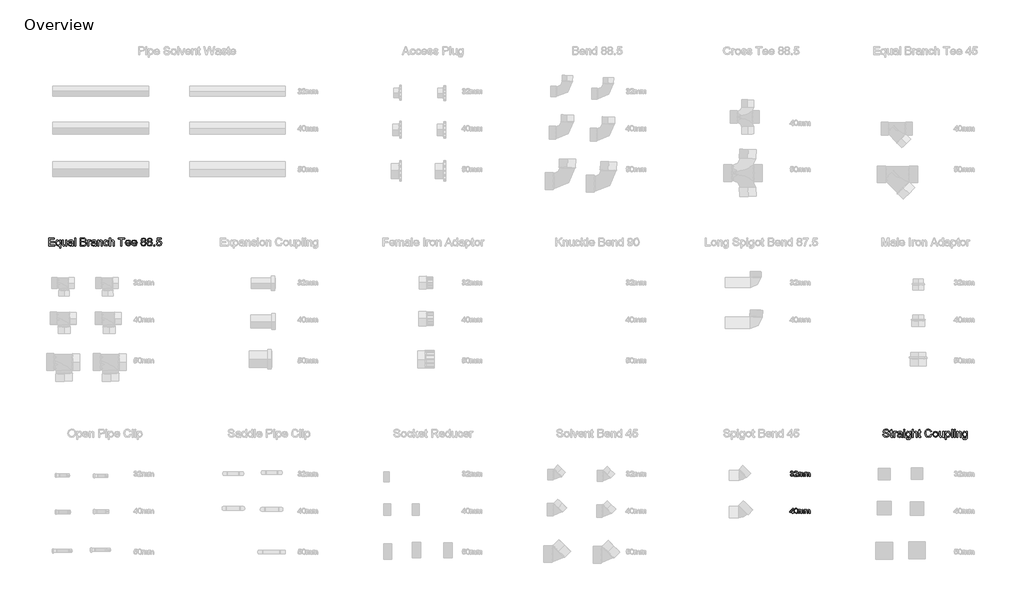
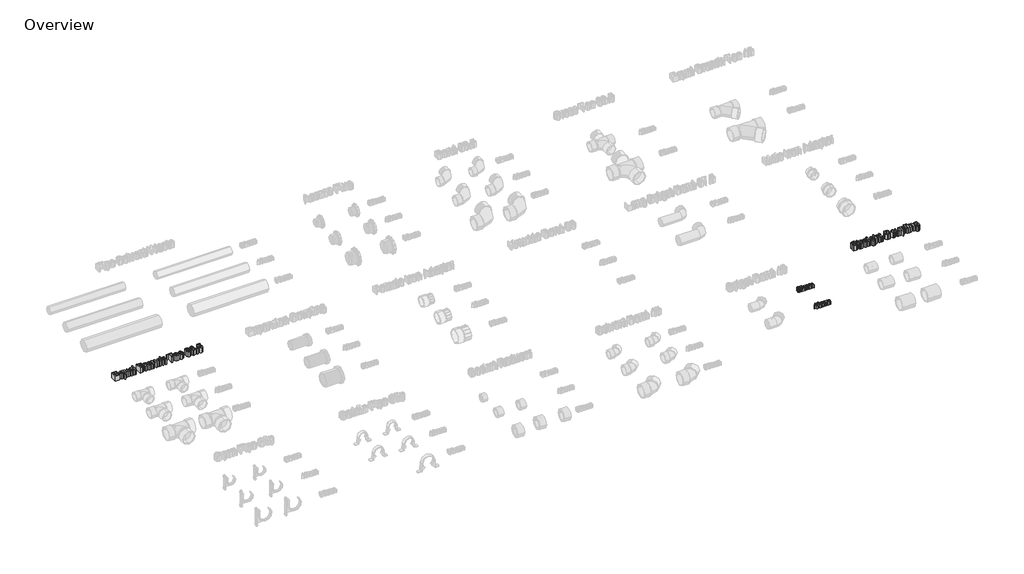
# One storey, part 4 of 10: 4 proxies.
"""IFC4 building model written with IfcOpenShell, lengths in millimetres."""

from ifc_helpers import new_model, si_unit, origin, origin_with_axes, place, context, project, spatial, polyline, outline, extrude, element, save

model = new_model("IFC4")

# Units and contexts
model_context = context("Model", 3, world=origin())
ifc_project = project(units=[si_unit("LENGTHUNIT", "METRE", prefix="MILLI")], contexts=[model_context])

# Site, building, storey
site = spatial("IfcSite", under=ifc_project)
building = spatial("IfcBuilding", under=site)
storey = spatial("IfcBuildingStorey", under=building, Name="Overview", Elevation=0.0)

# Proxies
placement = place(None, origin())
element("IfcBuildingElementProxy", 1, Name="20mm Arial", ObjectType="20mm Arial", at=placement, inside=storey, context=model_context, shape_type="SweptSolid", body=[
    extrude(outline(polyline([(-498.2349117, 3721.4652453), (-495.7733732, 3721.7729376), (-494.4152001, 3719.1815914), (-491.8743347, 3718.3883222), (-488.8839501, 3719.4796684), (-487.7733732, 3722.1815914), (-488.8743347, 3724.7272645), (-491.6724117, 3725.7344761), (-493.3983732, 3725.4652453), (-493.1243347, 3727.9267837), (-489.9368347, 3728.6046684), (-488.6964501, 3730.7777453), (-489.5954886, 3732.7032261), (-491.9127963, 3733.4652453), (-494.2589501, 3732.6960145), (-495.4656809, 3730.3883222), (-497.9272194, 3730.6960145), (-495.9127963, 3734.5565914), (-491.9993347, 3735.9267837), (-489.0305847, 3735.251303), (-486.9536617, 3733.4051491), (-486.2349117, 3730.9219761), (-486.917604, 3728.6527453), (-488.9368347, 3727.0229376), (-486.2541424, 3725.3402453), (-485.3118347, 3722.1383222), (-487.1964501, 3717.7344761), (-491.9608732, 3715.9267837), (-496.2781809, 3717.470053), (-498.2349117, 3721.4652453)])), origin_with_axes(), (0.0, 0.0, 1.0), 15.0),
    extrude(outline(polyline([(-470.542604, 3718.6960145), (-470.542604, 3716.2344761), (-483.4656809, 3716.2344761), (-483.2012578, 3717.9315914), (-481.7060655, 3720.5445722), (-478.6243347, 3723.3979376), (-474.3743347, 3727.4988991), (-473.3118347, 3730.2873607), (-474.3142386, 3732.5445722), (-476.9320271, 3733.4652453), (-479.6603924, 3732.5662068), (-480.6964501, 3730.0806299), (-483.1579886, 3730.3883222), (-481.2709694, 3734.5085145), (-476.8791424, 3735.9267837), (-472.4728924, 3734.3498607), (-470.8502963, 3730.4363991), (-471.2877963, 3728.1022645), (-472.7421232, 3725.688803), (-476.2685655, 3722.3162068), (-479.1002963, 3719.9484184), (-480.2108732, 3718.6960145), (-470.542604, 3718.6960145)])), origin_with_axes(), (0.0, 0.0, 1.0), 15.0),
    extrude(outline(polyline([(-467.4656809, 3716.2344761), (-467.4656809, 3730.6960145), (-465.0041424, 3730.6960145), (-465.0041424, 3728.3162068), (-463.3118347, 3730.2657261), (-460.9031809, 3731.0037068), (-458.4368347, 3730.251303), (-457.0810655, 3728.1431299), (-452.7349117, 3731.0037068), (-449.5161617, 3729.813803), (-448.3887578, 3726.1479376), (-448.3887578, 3716.2344761), (-450.8502963, 3716.2344761), (-450.8502963, 3725.0902453), (-451.0786617, 3727.1455337), (-455.7325078, 3727.5565914), (-456.6964501, 3724.3979376), (-456.6964501, 3716.2344761), (-459.1579886, 3716.2344761), (-459.1579886, 3725.3642837), (-459.7277001, 3727.7488991), (-461.5954886, 3728.5421684), (-463.417604, 3728.0133222), (-464.6291424, 3726.4652453), (-465.0041424, 3723.5277453), (-465.0041424, 3716.2344761), (-467.4656809, 3716.2344761)])), origin_with_axes(), (0.0, 0.0, 1.0), 15.0),
    extrude(outline(polyline([(-444.6964501, 3716.2344761), (-444.6964501, 3730.6960145), (-442.2349117, 3730.6960145), (-442.2349117, 3728.3162068), (-440.542604, 3730.2657261), (-438.1339501, 3731.0037068), (-435.667604, 3730.251303), (-434.3118347, 3728.1431299), (-429.9656809, 3731.0037068), (-426.7469309, 3729.813803), (-425.6195271, 3726.1479376), (-425.6195271, 3716.2344761), (-428.0810655, 3716.2344761), (-428.0810655, 3725.0902453), (-428.3094309, 3727.1455337), (-432.9632771, 3727.5565914), (-433.9272194, 3724.3979376), (-433.9272194, 3716.2344761), (-436.3887578, 3716.2344761), (-436.3887578, 3725.3642837), (-436.9584694, 3727.7488991), (-438.8262578, 3728.5421684), (-440.6483732, 3728.0133222), (-441.8599117, 3726.4652453), (-442.2349117, 3723.5277453), (-442.2349117, 3716.2344761), (-444.6964501, 3716.2344761)])), origin_with_axes(), (0.0, 0.0, 1.0), 15.0),
])
element("IfcBuildingElementProxy", 2, Name="20mm Arial", ObjectType="20mm Arial", at=placement, inside=storey, context=model_context, shape_type="SweptSolid", body=[
    extrude(outline(polyline([(-490.2349117, 3580.5685355), (-490.2349117, 3585.1839201), (-499.1579886, 3585.1839201), (-499.1579886, 3587.6454586), (-489.6195271, 3599.9531509), (-487.7733732, 3599.9531509), (-487.7733732, 3587.6454586), (-485.3118347, 3587.6454586), (-485.3118347, 3585.1839201), (-487.7733732, 3585.1839201), (-487.7733732, 3580.5685355), (-490.2349117, 3580.5685355)]), holes=[polyline([(-490.2349117, 3587.6454586), (-490.2349117, 3595.2512278), (-496.1291424, 3587.6454586), (-490.2349117, 3587.6454586)])]), origin_with_axes(), (0.0, 0.0, 1.0), 15.0),
    extrude(outline(polyline([(-483.1579886, 3590.2560355), (-482.4344309, 3595.9219009), (-480.2853924, 3599.1887278), (-476.6964501, 3600.2608432), (-473.8214501, 3599.6262278), (-471.8358732, 3597.7969009), (-470.6820271, 3594.8834393), (-470.2349117, 3590.2560355), (-470.9512578, 3584.6142086), (-473.0930847, 3581.3401701), (-476.6964501, 3580.2608432), (-481.1964501, 3582.1358432), (-483.1579886, 3590.2560355)]), holes=[polyline([(-480.6964501, 3590.2608432), (-479.542604, 3584.1478624), (-476.6964501, 3582.7223816), (-473.8502963, 3584.1526701), (-472.6964501, 3590.2608432), (-473.8118347, 3596.3041124), (-476.7252963, 3597.7993047), (-479.5041424, 3596.481997), (-480.6964501, 3590.2608432)])]), origin_with_axes(), (0.0, 0.0, 1.0), 15.0),
    extrude(outline(polyline([(-467.4656809, 3580.5685355), (-467.4656809, 3595.030074), (-465.0041424, 3595.030074), (-465.0041424, 3592.6502663), (-463.3118347, 3594.5997855), (-460.9031809, 3595.3377663), (-458.4368347, 3594.5853624), (-457.0810655, 3592.4771893), (-452.7349117, 3595.3377663), (-449.5161617, 3594.1478624), (-448.3887578, 3590.481997), (-448.3887578, 3580.5685355), (-450.8502963, 3580.5685355), (-450.8502963, 3589.4243047), (-451.0786617, 3591.4795932), (-455.7325078, 3591.8906509), (-456.6964501, 3588.731997), (-456.6964501, 3580.5685355), (-459.1579886, 3580.5685355), (-459.1579886, 3589.6983432), (-459.7277001, 3592.0829586), (-461.5954886, 3592.8762278), (-463.417604, 3592.3473816), (-464.6291424, 3590.7993047), (-465.0041424, 3587.8618047), (-465.0041424, 3580.5685355), (-467.4656809, 3580.5685355)])), origin_with_axes(), (0.0, 0.0, 1.0), 15.0),
    extrude(outline(polyline([(-444.6964501, 3580.5685355), (-444.6964501, 3595.030074), (-442.2349117, 3595.030074), (-442.2349117, 3592.6502663), (-440.542604, 3594.5997855), (-438.1339501, 3595.3377663), (-435.667604, 3594.5853624), (-434.3118347, 3592.4771893), (-429.9656809, 3595.3377663), (-426.7469309, 3594.1478624), (-425.6195271, 3590.481997), (-425.6195271, 3580.5685355), (-428.0810655, 3580.5685355), (-428.0810655, 3589.4243047), (-428.3094309, 3591.4795932), (-432.9632771, 3591.8906509), (-433.9272194, 3588.731997), (-433.9272194, 3580.5685355), (-436.3887578, 3580.5685355), (-436.3887578, 3589.6983432), (-436.9584694, 3592.0829586), (-438.8262578, 3592.8762278), (-440.6483732, 3592.3473816), (-441.8599117, 3590.7993047), (-442.2349117, 3587.8618047), (-442.2349117, 3580.5685355), (-444.6964501, 3580.5685355)])), origin_with_axes(), (0.0, 0.0, 1.0), 15.0),
])
element("IfcBuildingElementProxy", 3, Name="600mm Arial", ObjectType="600mm Arial", at=placement, inside=storey, context=model_context, shape_type="SweptSolid", body=[
    extrude(outline(polyline([(-3209.7615857, 4559.5713154), (-3209.7615857, 4589.1097769), (-3188.5308165, 4589.1097769), (-3188.5308165, 4585.4174692), (-3206.069278, 4585.4174692), (-3206.069278, 4576.6482385), (-3189.4538934, 4576.6482385), (-3189.4538934, 4572.9559308), (-3206.069278, 4572.9559308), (-3206.069278, 4563.2636231), (-3188.069278, 4563.2636231), (-3188.069278, 4559.5713154), (-3209.7615857, 4559.5713154)])), origin_with_axes(), (0.0, 0.0, 1.0), 25.0),
    extrude(outline(polyline([(-3169.6077396, 4551.2636231), (-3169.6077396, 4562.5280462), (-3171.9514896, 4560.0833346), (-3175.1534126, 4559.1097769), (-3181.6510088, 4562.1854981), (-3184.3769703, 4570.6193923), (-3183.2952396, 4576.46795), (-3180.1582203, 4580.3910269), (-3175.6510088, 4581.7251615), (-3169.6077396, 4577.5857385), (-3169.6077396, 4581.2636231), (-3165.9154319, 4581.2636231), (-3165.9154319, 4551.2636231), (-3169.6077396, 4551.2636231)]), holes=[polyline([(-3180.6846626, 4570.4174692), (-3179.022403, 4564.7059308), (-3175.038028, 4562.8020846), (-3171.2123069, 4564.6121808), (-3169.6077396, 4570.1217962), (-3171.2988453, 4576.046075), (-3175.2687972, 4578.0328538), (-3179.1089415, 4576.1830942), (-3180.6846626, 4570.4174692)])]), origin_with_axes(), (0.0, 0.0, 1.0), 25.0),
    extrude(outline(polyline([(-3146.5308165, 4559.5713154), (-3146.5308165, 4563.2996808), (-3153.194278, 4559.1097769), (-3156.6666338, 4559.8453538), (-3159.0608646, 4561.6915077), (-3160.1606242, 4564.4102577), (-3160.3769703, 4567.84295), (-3160.3769703, 4581.2636231), (-3156.6846626, 4581.2636231), (-3156.6846626, 4569.5809308), (-3156.4611049, 4565.8165077), (-3155.0007684, 4563.6061712), (-3152.2495665, 4562.8020846), (-3149.1666338, 4563.6242), (-3147.1293742, 4565.8633827), (-3146.5308165, 4569.9775654), (-3146.5308165, 4581.2636231), (-3142.8385088, 4581.2636231), (-3142.8385088, 4559.5713154), (-3146.5308165, 4559.5713154)])), origin_with_axes(), (0.0, 0.0, 1.0), 25.0),
    extrude(outline(polyline([(-3123.9154319, 4562.3405462), (-3127.4959607, 4559.8381423), (-3131.4514896, 4559.1097769), (-3136.8132684, 4560.8621808), (-3138.6846626, 4565.3405462), (-3137.9779319, 4568.2612192), (-3136.1209607, 4570.3814115), (-3133.5356242, 4571.59295), (-3130.3409126, 4572.1482385), (-3123.9370665, 4573.4174692), (-3124.9322588, 4576.9655462), (-3129.0139896, 4578.0328538), (-3132.7495665, 4577.3225173), (-3134.5308165, 4574.8020846), (-3138.2231242, 4575.2636231), (-3136.6257684, 4578.8693923), (-3133.4094222, 4580.9823731), (-3128.538028, 4581.7251615), (-3124.0632684, 4581.0689115), (-3121.5356242, 4579.421075), (-3120.4034126, 4576.9150654), (-3120.2231242, 4573.6842962), (-3120.2231242, 4569.0905462), (-3120.0356242, 4562.6758827), (-3119.3000472, 4559.5713154), (-3122.9923549, 4559.5713154), (-3123.9154319, 4562.3405462)]), holes=[polyline([(-3123.9262492, 4569.202325), (-3129.8721626, 4568.59295), (-3133.0488453, 4567.9943923), (-3134.4875472, 4567.0208346), (-3133.8925953, 4563.6025654), (-3130.6654319, 4562.8020846), (-3126.9298549, 4563.6854981), (-3124.5212011, 4565.8237192), (-3123.9262492, 4569.202325)])]), origin_with_axes(), (0.0, 0.0, 1.0), 25.0),
    extrude(outline(polyline([(-3115.1462011, 4559.5713154), (-3115.1462011, 4589.1097769), (-3111.4538934, 4589.1097769), (-3111.4538934, 4559.5713154), (-3115.1462011, 4559.5713154)])), origin_with_axes(), (0.0, 0.0, 1.0), 25.0),
    extrude(outline(polyline([(-3093.9154319, 4559.5713154), (-3093.9154319, 4589.1097769), (-3082.6437972, 4589.1097769), (-3077.1233646, 4588.2407865), (-3073.8637492, 4585.5689115), (-3072.6846626, 4581.7900654), (-3073.6762492, 4578.3393442), (-3076.6726434, 4575.7251615), (-3073.0344222, 4572.9703538), (-3071.7615857, 4568.3766038), (-3072.6305761, 4564.4066519), (-3074.7832203, 4561.5797288), (-3077.9959607, 4560.0797288), (-3082.7303357, 4559.5713154), (-3093.9154319, 4559.5713154)]), holes=[polyline([(-3090.2231242, 4563.2636231), (-3082.6510088, 4563.2636231), (-3079.9106242, 4563.4078538), (-3077.5921146, 4564.2119404), (-3076.0560569, 4565.8525654), (-3075.4538934, 4568.3405462), (-3076.1606242, 4571.2107385), (-3078.4502876, 4572.9234788), (-3083.0115857, 4573.4174692), (-3090.2231242, 4573.4174692), (-3090.2231242, 4563.2636231)]), polyline([(-3090.2231242, 4577.1097769), (-3083.4803357, 4577.1097769), (-3079.5428357, 4577.4270846), (-3077.1738453, 4578.7936712), (-3076.3769703, 4581.1987192), (-3077.1197588, 4583.6073731), (-3079.2471626, 4585.0316519), (-3083.9923549, 4585.4174692), (-3090.2231242, 4585.4174692), (-3090.2231242, 4577.1097769)])]), origin_with_axes(), (0.0, 0.0, 1.0), 25.0),
    extrude(outline(polyline([(-3067.1462011, 4559.5713154), (-3067.1462011, 4581.2636231), (-3063.9154319, 4581.2636231), (-3063.9154319, 4578.0544885), (-3061.6221626, 4581.0112192), (-3059.3144703, 4581.7251615), (-3055.6077396, 4580.5857385), (-3056.8409126, 4577.2756423), (-3059.4370665, 4578.0328538), (-3061.5248069, 4577.3044885), (-3062.8553357, 4575.2852577), (-3063.4538934, 4570.9727577), (-3063.4538934, 4559.5713154), (-3067.1462011, 4559.5713154)])), origin_with_axes(), (0.0, 0.0, 1.0), 25.0),
    extrude(outline(polyline([(-3039.4538934, 4562.3405462), (-3043.0344222, 4559.8381423), (-3046.9899511, 4559.1097769), (-3052.3517299, 4560.8621808), (-3054.2231242, 4565.3405462), (-3053.5163934, 4568.2612192), (-3051.6594222, 4570.3814115), (-3049.0740857, 4571.59295), (-3045.8793742, 4572.1482385), (-3039.475528, 4573.4174692), (-3040.4707203, 4576.9655462), (-3044.5524511, 4578.0328538), (-3048.288028, 4577.3225173), (-3050.069278, 4574.8020846), (-3053.7615857, 4575.2636231), (-3052.1642299, 4578.8693923), (-3048.9478838, 4580.9823731), (-3044.0764896, 4581.7251615), (-3039.6017299, 4581.0689115), (-3037.0740857, 4579.421075), (-3035.9418742, 4576.9150654), (-3035.7615857, 4573.6842962), (-3035.7615857, 4569.0905462), (-3035.5740857, 4562.6758827), (-3034.8385088, 4559.5713154), (-3038.5308165, 4559.5713154), (-3039.4538934, 4562.3405462)]), holes=[polyline([(-3039.4647107, 4569.202325), (-3045.4106242, 4568.59295), (-3048.5873069, 4567.9943923), (-3050.0260088, 4567.0208346), (-3049.4310569, 4563.6025654), (-3046.2038934, 4562.8020846), (-3042.4683165, 4563.6854981), (-3040.0596626, 4565.8237192), (-3039.4647107, 4569.202325)])]), origin_with_axes(), (0.0, 0.0, 1.0), 25.0),
    extrude(outline(polyline([(-3030.6846626, 4559.5713154), (-3030.6846626, 4581.2636231), (-3026.9923549, 4581.2636231), (-3026.9923549, 4578.2347769), (-3020.3144703, 4581.7251615), (-3016.8276915, 4581.0220365), (-3014.4478838, 4579.1758827), (-3013.3409126, 4576.4607385), (-3013.1462011, 4572.8910269), (-3013.1462011, 4559.5713154), (-3016.8385088, 4559.5713154), (-3016.8385088, 4572.3934308), (-3017.2639896, 4575.6602577), (-3018.7675953, 4577.3874212), (-3021.3024511, 4578.0328538), (-3025.3084607, 4576.5833346), (-3026.9923549, 4571.0809308), (-3026.9923549, 4559.5713154), (-3030.6846626, 4559.5713154)])), origin_with_axes(), (0.0, 0.0, 1.0), 25.0),
    extrude(outline(polyline([(-2994.2231242, 4567.4174692), (-2990.5308165, 4566.9559308), (-2993.4947588, 4561.1903058), (-2999.350528, 4559.1097769), (-3006.3493261, 4562.0124212), (-3008.9923549, 4570.3381423), (-3007.8637492, 4576.4715558), (-3004.4238453, 4580.4126615), (-2999.4010088, 4581.7251615), (-2993.7868261, 4579.9222769), (-2990.9923549, 4574.8020846), (-2994.6846626, 4574.3405462), (-2996.397403, 4577.1061712), (-2999.3721626, 4578.0328538), (-3003.6522107, 4576.2083346), (-3005.3000472, 4570.4391038), (-3003.6882684, 4564.6157865), (-2999.4731242, 4562.8020846), (-2995.9935569, 4563.9342962), (-2994.2231242, 4567.4174692)])), origin_with_axes(), (0.0, 0.0, 1.0), 25.0),
    extrude(outline(polyline([(-2987.3000472, 4559.5713154), (-2987.3000472, 4589.1097769), (-2983.6077396, 4589.1097769), (-2983.6077396, 4578.2492), (-2977.1822588, 4581.7251615), (-2973.0356242, 4580.7768442), (-2970.5187972, 4578.15545), (-2969.7615857, 4573.3020846), (-2969.7615857, 4559.5713154), (-2973.4538934, 4559.5713154), (-2973.4538934, 4572.9198731), (-2974.6293742, 4576.8141038), (-2977.9611049, 4578.0328538), (-2980.9863453, 4577.2107385), (-2983.0055761, 4574.9823731), (-2983.6077396, 4571.0953538), (-2983.6077396, 4559.5713154), (-2987.3000472, 4559.5713154)])), origin_with_axes(), (0.0, 0.0, 1.0), 25.0),
    extrude(outline(polyline([(-2945.3000472, 4559.5713154), (-2945.3000472, 4585.4174692), (-2954.9923549, 4585.4174692), (-2954.9923549, 4589.1097769), (-2931.9154319, 4589.1097769), (-2931.9154319, 4585.4174692), (-2941.6077396, 4585.4174692), (-2941.6077396, 4559.5713154), (-2945.3000472, 4559.5713154)])), origin_with_axes(), (0.0, 0.0, 1.0), 25.0),
    extrude(outline(polyline([(-2913.0356242, 4566.0328538), (-2909.4154319, 4565.5713154), (-2912.8012492, 4560.8044885), (-2919.1077396, 4559.1097769), (-2926.7736049, 4562.0340558), (-2929.6077396, 4570.2371808), (-2926.7447588, 4578.7107385), (-2919.3168742, 4581.7251615), (-2912.1017299, 4578.71795), (-2909.3000472, 4570.2588154), (-2925.9154319, 4569.2636231), (-2923.7916338, 4564.46795), (-2919.0356242, 4562.8020846), (-2915.4154319, 4563.5737192), (-2913.0356242, 4566.0328538)]), holes=[polyline([(-2925.9154319, 4572.9559308), (-2912.9923549, 4572.9559308), (-2914.4707203, 4576.3020846), (-2919.3312972, 4578.0328538), (-2923.8781722, 4576.6518442), (-2925.9154319, 4572.9559308)])]), origin_with_axes(), (0.0, 0.0, 1.0), 25.0),
    extrude(outline(polyline([(-2890.4202396, 4566.0328538), (-2886.8000472, 4565.5713154), (-2890.1858646, 4560.8044885), (-2896.4923549, 4559.1097769), (-2904.1582203, 4562.0340558), (-2906.9923549, 4570.2371808), (-2904.1293742, 4578.7107385), (-2896.7014896, 4581.7251615), (-2889.4863453, 4578.71795), (-2886.6846626, 4570.2588154), (-2903.3000472, 4569.2636231), (-2901.1762492, 4564.46795), (-2896.4202396, 4562.8020846), (-2892.8000472, 4563.5737192), (-2890.4202396, 4566.0328538)]), holes=[polyline([(-2903.3000472, 4572.9559308), (-2890.3769703, 4572.9559308), (-2891.8553357, 4576.3020846), (-2896.7159126, 4578.0328538), (-2901.2627876, 4576.6518442), (-2903.3000472, 4572.9559308)])]), origin_with_axes(), (0.0, 0.0, 1.0), 25.0),
    extrude(outline(polyline([(-2866.9971626, 4575.8405462), (-2870.3613453, 4578.1338154), (-2871.4538934, 4581.7035269), (-2869.0740857, 4586.9751615), (-2862.7351434, 4589.1097769), (-2856.3385088, 4586.9246808), (-2853.9154319, 4581.6025654), (-2854.9935569, 4578.1229981), (-2858.2639896, 4575.8405462), (-2854.3373069, 4572.9451135), (-2852.9923549, 4568.1674692), (-2855.6606242, 4561.7203538), (-2862.6846626, 4559.1097769), (-2869.7087011, 4561.7311712), (-2872.3769703, 4568.2684308), (-2870.9779319, 4573.1578538), (-2866.9971626, 4575.8405462)]), holes=[polyline([(-2867.7615857, 4581.5953538), (-2866.4526915, 4578.6963154), (-2862.6413934, 4577.5713154), (-2858.9058165, 4578.6891038), (-2857.6077396, 4581.4294885), (-2858.9490857, 4584.2672288), (-2862.6846626, 4585.4174692), (-2866.4310569, 4584.2924692), (-2867.7615857, 4581.5953538)]), polyline([(-2868.6846626, 4568.3982385), (-2868.0680761, 4565.6181904), (-2865.8865857, 4563.5376615), (-2862.6558165, 4562.8020846), (-2858.256778, 4564.3489596), (-2856.6846626, 4568.2828538), (-2858.3072588, 4572.2924692), (-2862.7784126, 4573.8790077), (-2867.1233646, 4572.3141038), (-2868.6846626, 4568.3982385)])]), origin_with_axes(), (0.0, 0.0, 1.0), 25.0),
    extrude(outline(polyline([(-2844.381778, 4575.8405462), (-2847.7459607, 4578.1338154), (-2848.8385088, 4581.7035269), (-2846.4587011, 4586.9751615), (-2840.1197588, 4589.1097769), (-2833.7231242, 4586.9246808), (-2831.3000472, 4581.6025654), (-2832.3781722, 4578.1229981), (-2835.6486049, 4575.8405462), (-2831.7219222, 4572.9451135), (-2830.3769703, 4568.1674692), (-2833.0452396, 4561.7203538), (-2840.069278, 4559.1097769), (-2847.0933165, 4561.7311712), (-2849.7615857, 4568.2684308), (-2848.3625472, 4573.1578538), (-2844.381778, 4575.8405462)]), holes=[polyline([(-2845.1462011, 4581.5953538), (-2843.8373069, 4578.6963154), (-2840.0260088, 4577.5713154), (-2836.2904319, 4578.6891038), (-2834.9923549, 4581.4294885), (-2836.3337011, 4584.2672288), (-2840.069278, 4585.4174692), (-2843.8156722, 4584.2924692), (-2845.1462011, 4581.5953538)]), polyline([(-2846.069278, 4568.3982385), (-2845.4526915, 4565.6181904), (-2843.2712011, 4563.5376615), (-2840.0404319, 4562.8020846), (-2835.6413934, 4564.3489596), (-2834.069278, 4568.2828538), (-2835.6918742, 4572.2924692), (-2840.163028, 4573.8790077), (-2844.5079799, 4572.3141038), (-2846.069278, 4568.3982385)])]), origin_with_axes(), (0.0, 0.0, 1.0), 25.0),
    extrude(outline(polyline([(-2825.3000472, 4559.5713154), (-2825.3000472, 4563.2636231), (-2821.6077396, 4563.2636231), (-2821.6077396, 4559.5713154), (-2825.3000472, 4559.5713154)])), origin_with_axes(), (0.0, 0.0, 1.0), 25.0),
    extrude(outline(polyline([(-2815.6077396, 4567.4174692), (-2811.9154319, 4567.8790077), (-2810.0548549, 4564.0749212), (-2806.1966819, 4562.8020846), (-2801.5668742, 4564.5725173), (-2799.9154319, 4569.2708346), (-2801.4623069, 4573.65545), (-2806.1389896, 4575.2636231), (-2809.3805761, 4574.6217962), (-2811.4538934, 4572.9559308), (-2815.1462011, 4573.4174692), (-2811.9154319, 4588.6482385), (-2797.6077396, 4588.6482385), (-2797.6077396, 4584.9559308), (-2808.9298549, 4584.9559308), (-2810.5091819, 4576.8213154), (-2805.1077396, 4578.9559308), (-2798.7940376, 4576.3092962), (-2796.2231242, 4569.5016038), (-2798.538028, 4562.6506423), (-2806.2111049, 4559.1097769), (-2812.7267299, 4561.3850173), (-2815.6077396, 4567.4174692)])), origin_with_axes(), (0.0, 0.0, 1.0), 25.0),
])
element("IfcBuildingElementProxy", 4, Name="600mm Arial", ObjectType="600mm Arial", at=placement, inside=storey, context=model_context, shape_type="SweptSolid", body=[
    extrude(outline(polyline([(-158.9923549, 3869.7251615), (-155.3000472, 3869.7251615), (-154.1101434, 3866.0292481), (-151.2038934, 3863.6927096), (-146.7760088, 3862.8020846), (-142.9178357, 3863.4763635), (-140.4262492, 3865.3297288), (-139.6077396, 3867.8068923), (-140.2207203, 3870.1109788), (-142.7303357, 3871.7876615), (-148.1065376, 3873.1975173), (-153.8937972, 3875.0184308), (-157.0344222, 3877.7660269), (-158.069278, 3881.4367), (-156.7892299, 3885.6157865), (-153.0500472, 3888.5653058), (-147.5764896, 3889.5713154), (-141.7351434, 3888.5184308), (-137.8409126, 3885.4246808), (-136.3769703, 3880.8020846), (-140.069278, 3880.8020846), (-142.1606242, 3884.5953538), (-147.4322588, 3885.8790077), (-152.7183165, 3884.6097769), (-154.3769703, 3881.5448731), (-153.2014896, 3878.9847769), (-147.1726434, 3876.9222769), (-140.6389896, 3875.0689115), (-137.0656722, 3872.0761231), (-135.9154319, 3867.9006423), (-137.2387492, 3863.483575), (-141.0464415, 3860.2600173), (-146.631778, 3859.1097769), (-153.2267299, 3860.3501615), (-157.3986049, 3864.0857385), (-158.9923549, 3869.7251615)])), origin_with_axes(), (0.0, 0.0, 1.0), 25.0),
    extrude(outline(polyline([(-122.9923549, 3862.6506423), (-122.5308165, 3859.4631423), (-125.2928357, 3859.1097769), (-128.3865857, 3859.7227577), (-129.9298549, 3861.3309308), (-130.3769703, 3865.5208346), (-130.3769703, 3877.5713154), (-133.1462011, 3877.5713154), (-133.1462011, 3881.2636231), (-130.3769703, 3881.2636231), (-130.3769703, 3886.5352577), (-126.6846626, 3888.7059308), (-126.6846626, 3881.2636231), (-122.9923549, 3881.2636231), (-122.9923549, 3877.5713154), (-126.6846626, 3877.5713154), (-126.6846626, 3865.6290077), (-126.4899511, 3863.7251615), (-122.9923549, 3862.6506423)])), origin_with_axes(), (0.0, 0.0, 1.0), 25.0),
    extrude(outline(polyline([(-119.3000472, 3859.5713154), (-119.3000472, 3881.2636231), (-116.069278, 3881.2636231), (-116.069278, 3878.0544885), (-113.7760088, 3881.0112192), (-111.4683165, 3881.7251615), (-107.7615857, 3880.5857385), (-108.9947588, 3877.2756423), (-111.5909126, 3878.0328538), (-113.678653, 3877.3044885), (-115.0091819, 3875.2852577), (-115.6077396, 3870.9727577), (-115.6077396, 3859.5713154), (-119.3000472, 3859.5713154)])), origin_with_axes(), (0.0, 0.0, 1.0), 25.0),
    extrude(outline(polyline([(-91.6077396, 3862.3405462), (-95.1882684, 3859.8381423), (-99.1437972, 3859.1097769), (-104.5055761, 3860.8621808), (-106.3769703, 3865.3405462), (-105.6702396, 3868.2612192), (-103.8132684, 3870.3814115), (-101.2279319, 3871.59295), (-98.0332203, 3872.1482385), (-91.6293742, 3873.4174692), (-92.6245665, 3876.9655462), (-96.7062972, 3878.0328538), (-100.4418742, 3877.3225173), (-102.2231242, 3874.8020846), (-105.9154319, 3875.2636231), (-104.3180761, 3878.8693923), (-101.1017299, 3880.9823731), (-96.2303357, 3881.7251615), (-91.7555761, 3881.0689115), (-89.2279319, 3879.421075), (-88.0957203, 3876.9150654), (-87.9154319, 3873.6842962), (-87.9154319, 3869.0905462), (-87.7279319, 3862.6758827), (-86.9923549, 3859.5713154), (-90.6846626, 3859.5713154), (-91.6077396, 3862.3405462)]), holes=[polyline([(-91.6185569, 3869.202325), (-97.5644703, 3868.59295), (-100.741153, 3867.9943923), (-102.1798549, 3867.0208346), (-101.584903, 3863.6025654), (-98.3577396, 3862.8020846), (-94.6221626, 3863.6854981), (-92.2135088, 3865.8237192), (-91.6185569, 3869.202325)])]), origin_with_axes(), (0.0, 0.0, 1.0), 25.0),
    extrude(outline(polyline([(-82.8385088, 3859.5713154), (-82.8385088, 3881.2636231), (-79.1462011, 3881.2636231), (-79.1462011, 3859.5713154), (-82.8385088, 3859.5713154)])), origin_with_axes(), (0.0, 0.0, 1.0), 25.0),
    extrude(outline(polyline([(-82.8385088, 3885.4174692), (-82.8385088, 3889.1097769), (-79.1462011, 3889.1097769), (-79.1462011, 3885.4174692), (-82.8385088, 3885.4174692)])), origin_with_axes(), (0.0, 0.0, 1.0), 25.0),
    extrude(outline(polyline([(-74.5308165, 3857.7251615), (-70.8385088, 3857.2636231), (-69.6413934, 3855.3165077), (-66.0572588, 3854.4943923), (-62.2784126, 3855.4246808), (-60.475528, 3858.0352577), (-60.2231242, 3862.3405462), (-65.9923549, 3859.5713154), (-72.6377876, 3862.7948731), (-74.9923549, 3870.5256423), (-73.9358646, 3876.2479981), (-70.8781722, 3880.2972769), (-66.1726434, 3881.7251615), (-60.2231242, 3878.4943923), (-60.2231242, 3881.2636231), (-56.5308165, 3881.2636231), (-56.5308165, 3862.5352577), (-57.5404319, 3855.3633827), (-60.7387492, 3852.0280462), (-66.1293742, 3850.8020846), (-72.2699992, 3852.5292481), (-74.5308165, 3857.7251615)]), holes=[polyline([(-71.3000472, 3870.7780462), (-69.7243261, 3865.0629019), (-65.7687972, 3863.2636231), (-61.8204799, 3865.0520846), (-60.2231242, 3870.6698731), (-61.8673549, 3876.1758827), (-65.8264896, 3878.0328538), (-69.7026915, 3876.2047288), (-71.3000472, 3870.7780462)])]), origin_with_axes(), (0.0, 0.0, 1.0), 25.0),
    extrude(outline(polyline([(-50.9923549, 3859.5713154), (-50.9923549, 3889.1097769), (-47.3000472, 3889.1097769), (-47.3000472, 3878.2492), (-40.8745665, 3881.7251615), (-36.7279319, 3880.7768442), (-34.2111049, 3878.15545), (-33.4538934, 3873.3020846), (-33.4538934, 3859.5713154), (-37.1462011, 3859.5713154), (-37.1462011, 3872.9198731), (-38.3216819, 3876.8141038), (-41.6534126, 3878.0328538), (-44.678653, 3877.2107385), (-46.6978838, 3874.9823731), (-47.3000472, 3871.0953538), (-47.3000472, 3859.5713154), (-50.9923549, 3859.5713154)])), origin_with_axes(), (0.0, 0.0, 1.0), 25.0),
    extrude(outline(polyline([(-20.5308165, 3862.6506423), (-20.069278, 3859.4631423), (-22.8312972, 3859.1097769), (-25.9250472, 3859.7227577), (-27.4683165, 3861.3309308), (-27.9154319, 3865.5208346), (-27.9154319, 3877.5713154), (-30.6846626, 3877.5713154), (-30.6846626, 3881.2636231), (-27.9154319, 3881.2636231), (-27.9154319, 3886.5352577), (-24.2231242, 3888.7059308), (-24.2231242, 3881.2636231), (-20.5308165, 3881.2636231), (-20.5308165, 3877.5713154), (-24.2231242, 3877.5713154), (-24.2231242, 3865.6290077), (-24.0284126, 3863.7251615), (-20.5308165, 3862.6506423)])), origin_with_axes(), (0.0, 0.0, 1.0), 25.0),
    extrude(outline(polyline([(15.930722, 3870.0713154), (19.6230297, 3869.1193923), (15.2456258, 3861.6734788), (7.5148566, 3859.1097769), (-0.1690376, 3861.0496808), (-4.6762492, 3866.6674692), (-6.2231242, 3874.5641038), (-4.4743261, 3882.5905462), (0.4980297, 3887.7936712), (7.5941835, 3889.5713154), (14.9896162, 3887.2708346), (19.1614912, 3880.7948731), (15.4691835, 3879.9150654), (12.4403374, 3884.4547288), (7.4499528, 3885.8790077), (1.6735104, 3884.2996808), (-1.5897107, 3880.0592962), (-2.5308165, 3874.5713154), (-1.4166338, 3868.2107385), (2.0521162, 3864.1470365), (7.1470681, 3862.8020846), (12.7973085, 3864.6338154), (15.930722, 3870.0713154)])), origin_with_axes(), (0.0, 0.0, 1.0), 25.0),
    extrude(outline(polyline([(23.3153374, 3870.4174692), (26.5100489, 3879.3237192), (33.0148566, 3881.7251615), (39.9920201, 3878.8008827), (42.6999528, 3870.7203538), (41.5028374, 3864.1506423), (38.0160585, 3860.4330942), (33.0148566, 3859.1097769), (25.9944239, 3862.0232385), (23.3153374, 3870.4174692)]), holes=[polyline([(27.0076451, 3870.4246808), (28.7167797, 3864.702325), (33.0148566, 3862.8020846), (37.2985104, 3864.7131423), (39.0076451, 3870.5400654), (37.2876931, 3876.1326135), (33.0148566, 3878.0328538), (28.7167797, 3876.139825), (27.0076451, 3870.4246808)])]), origin_with_axes(), (0.0, 0.0, 1.0), 25.0),
    extrude(outline(polyline([(60.6999528, 3859.5713154), (60.6999528, 3863.2996808), (54.0364912, 3859.1097769), (50.5641354, 3859.8453538), (48.1699047, 3861.6915077), (47.0701451, 3864.4102577), (46.8537989, 3867.84295), (46.8537989, 3881.2636231), (50.5461066, 3881.2636231), (50.5461066, 3869.5809308), (50.7696643, 3865.8165077), (52.2300008, 3863.6061712), (54.9812028, 3862.8020846), (58.0641354, 3863.6242), (60.1013951, 3865.8633827), (60.6999528, 3869.9775654), (60.6999528, 3881.2636231), (64.3922604, 3881.2636231), (64.3922604, 3859.5713154), (60.6999528, 3859.5713154)])), origin_with_axes(), (0.0, 0.0, 1.0), 25.0),
    extrude(outline(polyline([(69.4691835, 3851.2636231), (69.4691835, 3881.2636231), (73.1614912, 3881.2636231), (73.1614912, 3877.6434308), (75.7143758, 3880.7047288), (79.1614912, 3881.7251615), (83.8417797, 3880.2972769), (86.899472, 3876.2732385), (87.930722, 3870.5833346), (86.7660585, 3864.6013635), (83.383847, 3860.5268442), (78.7143758, 3859.1097769), (75.5016354, 3860.0580942), (73.1614912, 3862.4559308), (73.1614912, 3851.2636231), (69.4691835, 3851.2636231)]), holes=[polyline([(73.1614912, 3870.2443923), (74.758847, 3864.6193923), (78.6350489, 3862.8020846), (82.5905778, 3864.6842962), (84.2384143, 3870.5184308), (82.6302412, 3876.1578538), (78.7864912, 3878.0328538), (74.8670201, 3876.0388635), (73.1614912, 3870.2443923)])]), origin_with_axes(), (0.0, 0.0, 1.0), 25.0),
    extrude(outline(polyline([(92.0845681, 3859.5713154), (92.0845681, 3889.1097769), (95.7768758, 3889.1097769), (95.7768758, 3859.5713154), (92.0845681, 3859.5713154)])), origin_with_axes(), (0.0, 0.0, 1.0), 25.0),
    extrude(outline(polyline([(101.3153374, 3885.4174692), (101.3153374, 3889.1097769), (105.0076451, 3889.1097769), (105.0076451, 3885.4174692), (101.3153374, 3885.4174692)])), origin_with_axes(), (0.0, 0.0, 1.0), 25.0),
    extrude(outline(polyline([(101.3153374, 3859.5713154), (101.3153374, 3881.2636231), (105.0076451, 3881.2636231), (105.0076451, 3859.5713154), (101.3153374, 3859.5713154)])), origin_with_axes(), (0.0, 0.0, 1.0), 25.0),
    extrude(outline(polyline([(110.5461066, 3859.5713154), (110.5461066, 3881.2636231), (114.2384143, 3881.2636231), (114.2384143, 3878.2347769), (120.9162989, 3881.7251615), (124.4030778, 3881.0220365), (126.7828854, 3879.1758827), (127.8898566, 3876.4607385), (128.0845681, 3872.8910269), (128.0845681, 3859.5713154), (124.3922604, 3859.5713154), (124.3922604, 3872.3934308), (123.9667797, 3875.6602577), (122.4631739, 3877.3874212), (119.9283181, 3878.0328538), (115.9223085, 3876.5833346), (114.2384143, 3871.0809308), (114.2384143, 3859.5713154), (110.5461066, 3859.5713154)])), origin_with_axes(), (0.0, 0.0, 1.0), 25.0),
    extrude(outline(polyline([(132.2384143, 3857.7251615), (135.930722, 3857.2636231), (137.1278374, 3855.3165077), (140.711972, 3854.4943923), (144.4908181, 3855.4246808), (146.2937028, 3858.0352577), (146.5461066, 3862.3405462), (140.7768758, 3859.5713154), (134.1314431, 3862.7948731), (131.7768758, 3870.5256423), (132.8333662, 3876.2479981), (135.8910585, 3880.2972769), (140.5965874, 3881.7251615), (146.5461066, 3878.4943923), (146.5461066, 3881.2636231), (150.2384143, 3881.2636231), (150.2384143, 3862.5352577), (149.2287989, 3855.3633827), (146.0304816, 3852.0280462), (140.6398566, 3850.8020846), (134.4992316, 3852.5292481), (132.2384143, 3857.7251615)]), holes=[polyline([(135.4691835, 3870.7780462), (137.0449047, 3865.0629019), (141.0004335, 3863.2636231), (144.9487508, 3865.0520846), (146.5461066, 3870.6698731), (144.9018758, 3876.1758827), (140.9427412, 3878.0328538), (137.0665393, 3876.2047288), (135.4691835, 3870.7780462)])]), origin_with_axes(), (0.0, 0.0, 1.0), 25.0),
])

save(model, "model.ifc")
